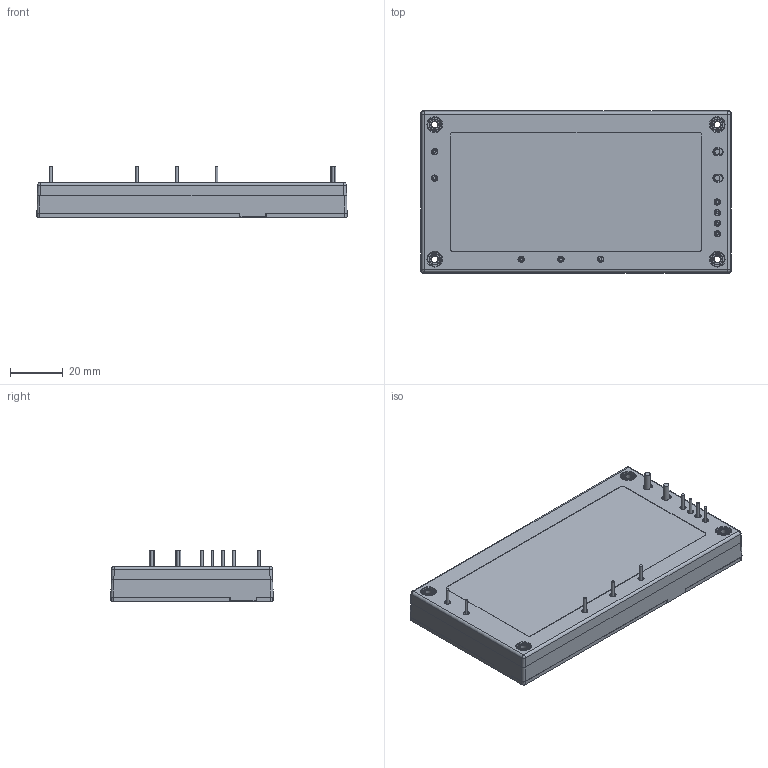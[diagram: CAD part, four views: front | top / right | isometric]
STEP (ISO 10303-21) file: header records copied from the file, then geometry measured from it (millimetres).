
FILE_DESCRIPTION(/* description */ (''),/* implementation_level */ '2;1');
FILE_NAME(/* name */ 'D:\Inventor\3D FILE\ABR300.stp',/* time_stamp */ '2020-03-13T11:41:51+08:00',/* author */ ('peter'),/* organization */ (''),/* preprocessor_version */ 'ST-DEVELOPER v15.2',/* originating_system */ 'Autodesk Inventor 2014',/* authorisation */ '');
FILE_SCHEMA (('AUTOMOTIVE_DESIGN { 1 0 10303 214 3 1 1 }'));
Length unit declared in the file: millimetre
Products named in the file (6): PCB; M3 - 4.3 x 12.5 mm; TOP COVER - 2; TOP COVER - 3; ABR300 - 1
Bounding box: 117.2 x 61.4 x 19.2 mm (x, y, z)
Volume: 23647.4 mm3; surface area: 40104.2 mm2
Topology: 7 solids, 7 shells, 363 faces, 925 edges, 606 vertices
Faces by surface type: plane 178, cylinder 97, bspline 54, cone 30, sphere 4
Full cylindrical faces by diameter (mm): 1 x9, 2 x11, 2.459 x4, 4.3 x12, 5.2 x4, 5.5 x4
Entity records: 10374 total; most frequent: CARTESIAN_POINT 2496, ORIENTED_EDGE 1604, DIRECTION 1454, EDGE_CURVE 802, VERTEX_POINT 552, LINE 494, VECTOR 494, AXIS2_PLACEMENT_3D 480
